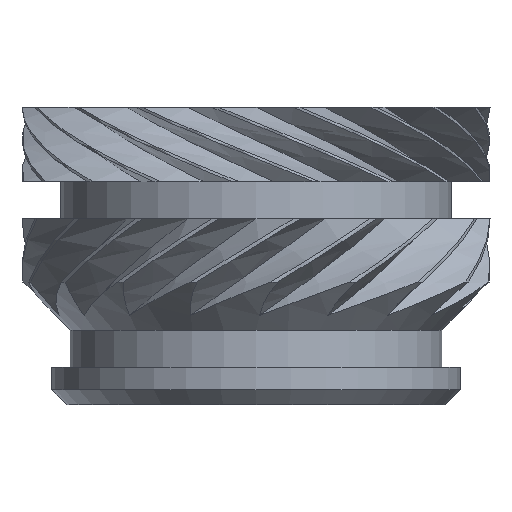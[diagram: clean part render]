
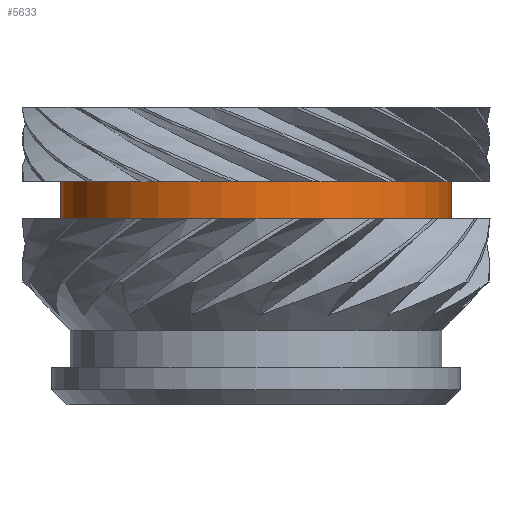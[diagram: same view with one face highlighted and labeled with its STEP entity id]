
A CAD part, front view. The second image highlights one B-rep face of the part: STEP entity #5633.
In plain terms, the highlighted cylindrical face has radius 2.625 mm (diameter 5.25 mm), a full revolution.
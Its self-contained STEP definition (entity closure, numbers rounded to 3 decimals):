
#437=FACE_OUTER_BOUND('',#767,.T.);
#767=EDGE_LOOP('',(#4429,#4430,#4431,#4432));
#987=CIRCLE('',#5891,2.625);
#1042=CIRCLE('',#5982,2.625);
#1552=LINE('',#11149,#1872);
#1872=VECTOR('',#6400,2.625);
#2265=VERTEX_POINT('',#7534);
#2426=VERTEX_POINT('',#10155);
#2871=EDGE_CURVE('',#2265,#2265,#987,.T.);
#3137=EDGE_CURVE('',#2426,#2426,#1042,.T.);
#3158=EDGE_CURVE('',#2426,#2265,#1552,.T.);
#4429=ORIENTED_EDGE('',*,*,#3137,.F.);
#4430=ORIENTED_EDGE('',*,*,#3158,.T.);
#4431=ORIENTED_EDGE('',*,*,#2871,.T.);
#4432=ORIENTED_EDGE('',*,*,#3158,.F.);
#5498=CYLINDRICAL_SURFACE('',#5997,2.625);
#5633=ADVANCED_FACE('',(#437),#5498,.T.);
#5891=AXIS2_PLACEMENT_3D('',#7535,#6180,#6181);
#5982=AXIS2_PLACEMENT_3D('',#10156,#6363,#6364);
#5997=AXIS2_PLACEMENT_3D('',#11148,#6398,#6399);
#6180=DIRECTION('center_axis',(0.,0.,1.));
#6181=DIRECTION('ref_axis',(1.,0.,0.));
#6363=DIRECTION('center_axis',(0.,0.,1.));
#6364=DIRECTION('ref_axis',(1.,0.,0.));
#6398=DIRECTION('center_axis',(0.,0.,1.));
#6399=DIRECTION('ref_axis',(1.,0.,0.));
#6400=DIRECTION('',(0.,0.,-1.));
#7534=CARTESIAN_POINT('',(-2.625,0.,2.5));
#7535=CARTESIAN_POINT('Origin',(0.,0.,2.5));
#10155=CARTESIAN_POINT('',(-2.625,0.,3.));
#10156=CARTESIAN_POINT('Origin',(0.,0.,3.));
#11148=CARTESIAN_POINT('Origin',(0.,0.,2.75));
#11149=CARTESIAN_POINT('',(-2.625,0.,2.75));
